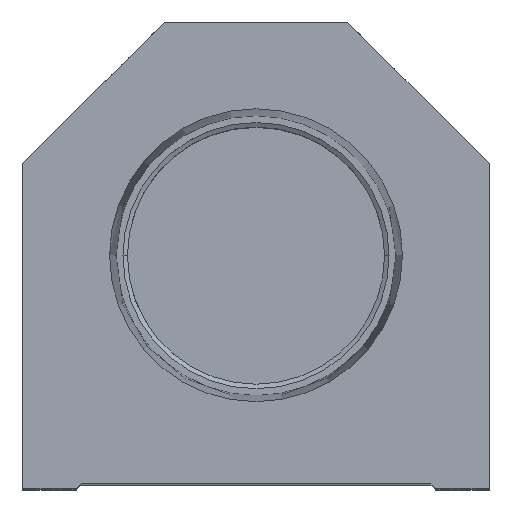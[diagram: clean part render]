
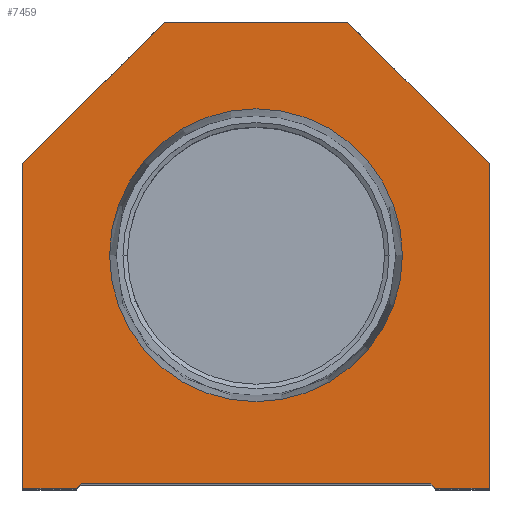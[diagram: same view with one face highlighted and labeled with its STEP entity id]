
A CAD part, top view. The second image highlights one B-rep face of the part: STEP entity #7459.
In plain terms, the highlighted planar face has unit normal (0, 0, 1).
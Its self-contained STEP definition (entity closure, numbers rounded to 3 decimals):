
#339 = VERTEX_POINT ( 'NONE', #5191 ) ;
#566 = LINE ( 'NONE', #9085, #4961 ) ;
#887 = CARTESIAN_POINT ( 'NONE',  ( -25.4, 35.4, 0. ) ) ;
#906 = FACE_OUTER_BOUND ( 'NONE', #3342, .T. ) ;
#918 = VERTEX_POINT ( 'NONE', #12592 ) ;
#1431 = CARTESIAN_POINT ( 'NONE',  ( -25.4, 35.4, 0. ) ) ;
#1621 = LINE ( 'NONE', #14162, #11966 ) ;
#1860 = DIRECTION ( 'NONE',  ( 0.707, -0.707, 0. ) ) ;
#2022 = CARTESIAN_POINT ( 'NONE',  ( 9.775, 9.775, 0. ) ) ;
#2054 = CIRCLE ( 'NONE', #14535, 15.947 ) ;
#2158 = CARTESIAN_POINT ( 'NONE',  ( -15.947, 25.4, 0. ) ) ;
#2221 = VERTEX_POINT ( 'NONE', #6778 ) ;
#2259 = DIRECTION ( 'NONE',  ( -0.707, 0.707, 0. ) ) ;
#2449 = CARTESIAN_POINT ( 'NONE',  ( 25.4, 35.4, 0. ) ) ;
#2474 = CARTESIAN_POINT ( 'NONE',  ( -19.55, 0., 0. ) ) ;
#2493 = LINE ( 'NONE', #9481, #5508 ) ;
#2789 = DIRECTION ( 'NONE',  ( -0.707, -0.707, 0. ) ) ;
#2945 = CIRCLE ( 'NONE', #3500, 15.947 ) ;
#3289 = CARTESIAN_POINT ( 'NONE',  ( -25.4, 0., 0. ) ) ;
#3342 = EDGE_LOOP ( 'NONE', ( #16434, #16501, #15418, #13059, #6074, #8983, #16514, #3621, #4716, #9360 ) ) ;
#3459 = VERTEX_POINT ( 'NONE', #2474 ) ;
#3500 = AXIS2_PLACEMENT_3D ( 'NONE', #6256, #14378, #3511 ) ;
#3511 = DIRECTION ( 'NONE',  ( 1., 0., 0. ) ) ;
#3544 = LINE ( 'NONE', #3289, #17473 ) ;
#3621 = ORIENTED_EDGE ( 'NONE', *, *, #4698, .T. ) ;
#3699 = VERTEX_POINT ( 'NONE', #12431 ) ;
#4098 = EDGE_CURVE ( 'NONE', #918, #339, #10568, .T. ) ;
#4210 = EDGE_CURVE ( 'NONE', #12667, #3699, #3544, .T. ) ;
#4296 = EDGE_CURVE ( 'NONE', #3699, #3459, #566, .T. ) ;
#4339 = CARTESIAN_POINT ( 'NONE',  ( 19.05, 0., 0. ) ) ;
#4698 = EDGE_CURVE ( 'NONE', #2221, #17943, #1621, .T. ) ;
#4716 = ORIENTED_EDGE ( 'NONE', *, *, #8290, .T. ) ;
#4961 = VECTOR ( 'NONE', #17091, 1000. ) ;
#4964 = DIRECTION ( 'NONE',  ( 1., 0., 0. ) ) ;
#5191 = CARTESIAN_POINT ( 'NONE',  ( 19.05, 0.5, 0. ) ) ;
#5247 = VECTOR ( 'NONE', #16112, 1000. ) ;
#5361 = CARTESIAN_POINT ( 'NONE',  ( 25.4, 35.4, 0. ) ) ;
#5368 = EDGE_CURVE ( 'NONE', #12082, #16029, #2945, .T. ) ;
#5469 = VERTEX_POINT ( 'NONE', #15437 ) ;
#5474 = VECTOR ( 'NONE', #2789, 1000. ) ;
#5508 = VECTOR ( 'NONE', #8094, 1000. ) ;
#6074 = ORIENTED_EDGE ( 'NONE', *, *, #8870, .T. ) ;
#6256 = CARTESIAN_POINT ( 'NONE',  ( 0., 25.4, 0. ) ) ;
#6369 = CARTESIAN_POINT ( 'NONE',  ( -19.05, 0.5, 0. ) ) ;
#6778 = CARTESIAN_POINT ( 'NONE',  ( 10., 50.8, 0. ) ) ;
#7422 = DIRECTION ( 'NONE',  ( 0., 0., 1. ) ) ;
#7459 = ADVANCED_FACE ( 'NONE', ( #13069, #906 ), #11716, .T. ) ;
#7607 = DIRECTION ( 'NONE',  ( 0., 0., 1. ) ) ;
#8094 = DIRECTION ( 'NONE',  ( 0., 1., 0. ) ) ;
#8235 = DIRECTION ( 'NONE',  ( -1., 0., 0. ) ) ;
#8290 = EDGE_CURVE ( 'NONE', #17943, #12667, #17967, .T. ) ;
#8392 = DIRECTION ( 'NONE',  ( 0.707, 0.707, 0. ) ) ;
#8850 = DIRECTION ( 'NONE',  ( 0., -1., 0. ) ) ;
#8870 = EDGE_CURVE ( 'NONE', #5469, #16436, #13922, .T. ) ;
#8983 = ORIENTED_EDGE ( 'NONE', *, *, #10459, .T. ) ;
#9020 = VECTOR ( 'NONE', #1860, 1000. ) ;
#9026 = ORIENTED_EDGE ( 'NONE', *, *, #9351, .F. ) ;
#9085 = CARTESIAN_POINT ( 'NONE',  ( -19.05, 0., 0. ) ) ;
#9351 = EDGE_CURVE ( 'NONE', #16029, #12082, #2054, .T. ) ;
#9360 = ORIENTED_EDGE ( 'NONE', *, *, #4210, .T. ) ;
#9481 = CARTESIAN_POINT ( 'NONE',  ( 25.4, 0., 0. ) ) ;
#9798 = EDGE_CURVE ( 'NONE', #339, #5469, #13010, .T. ) ;
#9819 = DIRECTION ( 'NONE',  ( 1., 0., 0. ) ) ;
#10085 = VERTEX_POINT ( 'NONE', #5361 ) ;
#10159 = VECTOR ( 'NONE', #9819, 1000. ) ;
#10218 = EDGE_CURVE ( 'NONE', #10085, #2221, #17364, .T. ) ;
#10459 = EDGE_CURVE ( 'NONE', #16436, #10085, #2493, .T. ) ;
#10568 = LINE ( 'NONE', #6369, #5247 ) ;
#10725 = VECTOR ( 'NONE', #8392, 1000. ) ;
#11542 = EDGE_CURVE ( 'NONE', #3459, #918, #13969, .T. ) ;
#11716 = PLANE ( 'NONE',  #16644 ) ;
#11788 = DIRECTION ( 'NONE',  ( 1., 0., 0. ) ) ;
#11966 = VECTOR ( 'NONE', #8235, 1000. ) ;
#12082 = VERTEX_POINT ( 'NONE', #2158 ) ;
#12431 = CARTESIAN_POINT ( 'NONE',  ( -25.4, 0., 0. ) ) ;
#12592 = CARTESIAN_POINT ( 'NONE',  ( -19.05, 0.5, 0. ) ) ;
#12667 = VERTEX_POINT ( 'NONE', #887 ) ;
#13010 = LINE ( 'NONE', #2022, #9020 ) ;
#13059 = ORIENTED_EDGE ( 'NONE', *, *, #9798, .T. ) ;
#13069 = FACE_BOUND ( 'NONE', #17727, .T. ) ;
#13252 = CARTESIAN_POINT ( 'NONE',  ( 0., 25.4, 0. ) ) ;
#13683 = CARTESIAN_POINT ( 'NONE',  ( 15.947, 25.4, 0. ) ) ;
#13688 = VECTOR ( 'NONE', #2259, 1000. ) ;
#13874 = CARTESIAN_POINT ( 'NONE',  ( -9.775, 9.775, 0. ) ) ;
#13922 = LINE ( 'NONE', #4339, #10159 ) ;
#13969 = LINE ( 'NONE', #13874, #10725 ) ;
#14162 = CARTESIAN_POINT ( 'NONE',  ( 10., 50.8, 0. ) ) ;
#14180 = CARTESIAN_POINT ( 'NONE',  ( -10., 50.8, 0. ) ) ;
#14310 = ORIENTED_EDGE ( 'NONE', *, *, #5368, .F. ) ;
#14378 = DIRECTION ( 'NONE',  ( 0., 0., 1. ) ) ;
#14531 = CARTESIAN_POINT ( 'NONE',  ( 0., 0., 0. ) ) ;
#14535 = AXIS2_PLACEMENT_3D ( 'NONE', #13252, #7422, #11788 ) ;
#15418 = ORIENTED_EDGE ( 'NONE', *, *, #4098, .T. ) ;
#15437 = CARTESIAN_POINT ( 'NONE',  ( 19.55, 0., 0. ) ) ;
#15635 = CARTESIAN_POINT ( 'NONE',  ( 25.4, 0., 0. ) ) ;
#16029 = VERTEX_POINT ( 'NONE', #13683 ) ;
#16112 = DIRECTION ( 'NONE',  ( 1., 0., 0. ) ) ;
#16434 = ORIENTED_EDGE ( 'NONE', *, *, #4296, .T. ) ;
#16436 = VERTEX_POINT ( 'NONE', #15635 ) ;
#16501 = ORIENTED_EDGE ( 'NONE', *, *, #11542, .T. ) ;
#16514 = ORIENTED_EDGE ( 'NONE', *, *, #10218, .T. ) ;
#16644 = AXIS2_PLACEMENT_3D ( 'NONE', #14531, #7607, #4964 ) ;
#17091 = DIRECTION ( 'NONE',  ( 1., 0., 0. ) ) ;
#17364 = LINE ( 'NONE', #2449, #13688 ) ;
#17473 = VECTOR ( 'NONE', #8850, 1000. ) ;
#17727 = EDGE_LOOP ( 'NONE', ( #9026, #14310 ) ) ;
#17943 = VERTEX_POINT ( 'NONE', #14180 ) ;
#17967 = LINE ( 'NONE', #1431, #5474 ) ;
